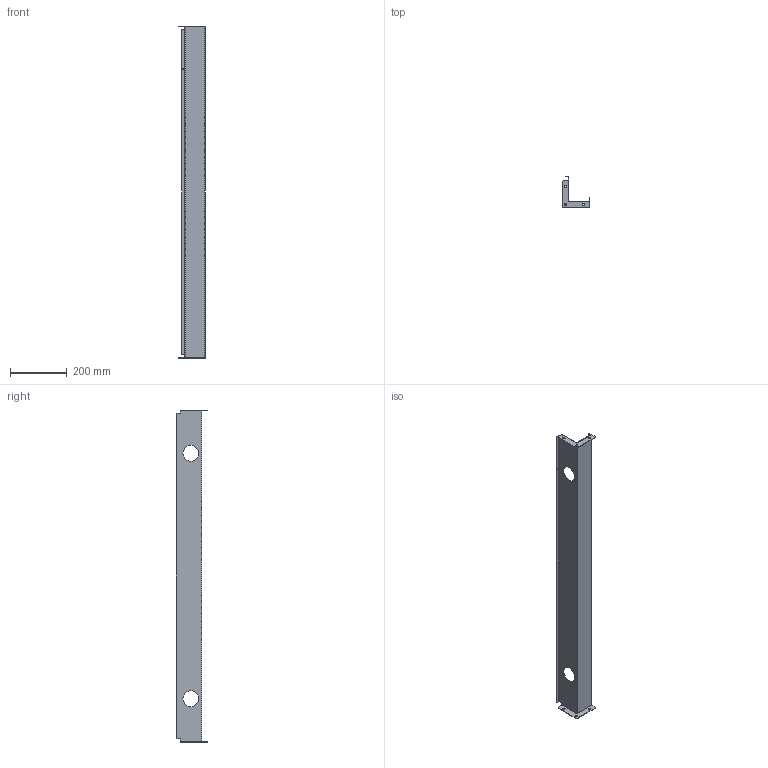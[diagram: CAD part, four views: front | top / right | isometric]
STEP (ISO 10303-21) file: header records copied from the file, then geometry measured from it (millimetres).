
FILE_DESCRIPTION (( 'STEP AP203' ), '1' );
FILE_NAME ('MILADESIGN kanál G2 ST201K–13_217633 a 219258 a 218764 a 219764_3D.STEP', '2021-11-29T09:17:59', ( '' ), ( '' ), 'SwSTEP 2.0', 'SolidWorks 2019', '' );
FILE_SCHEMA (( 'CONFIG_CONTROL_DESIGN' ));
Length unit declared in the file: millimetre
Products named in the file (1): MILADESIGN kanál G2 ST201K–13_217633 a 219258 a 218764 a 219764_3D
Bounding box: 95 x 110 x 1170 mm (x, y, z)
Volume: 220579.1 mm3; surface area: 432480.5 mm2
Topology: 3 solids, 3 shells, 76 faces, 194 edges, 124 vertices
Faces by surface type: plane 52, cylinder 24
Entity records: 2387 total; most frequent: DIRECTION 396, CARTESIAN_POINT 395, ORIENTED_EDGE 388, EDGE_CURVE 194, LINE 146, VECTOR 146, AXIS2_PLACEMENT_3D 125, VERTEX_POINT 124
